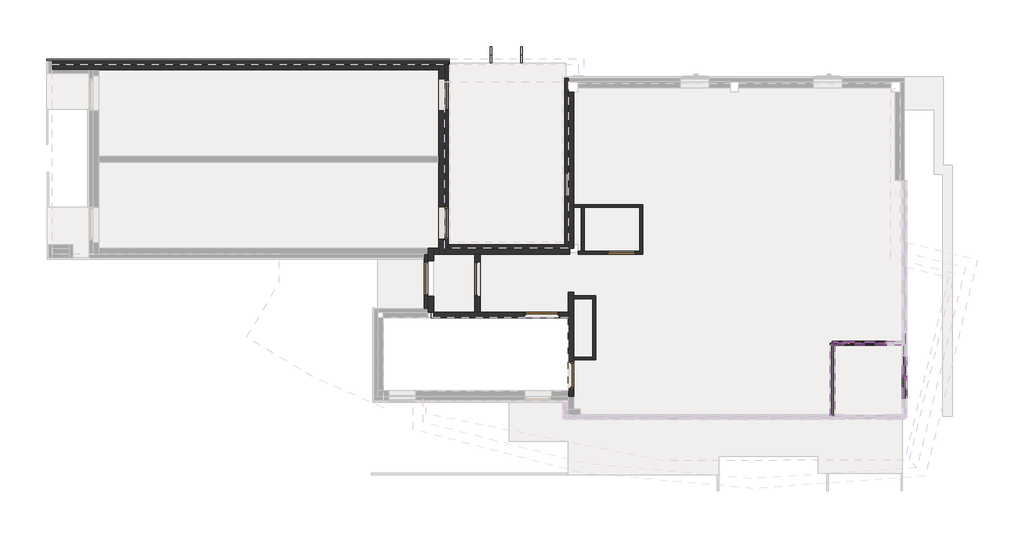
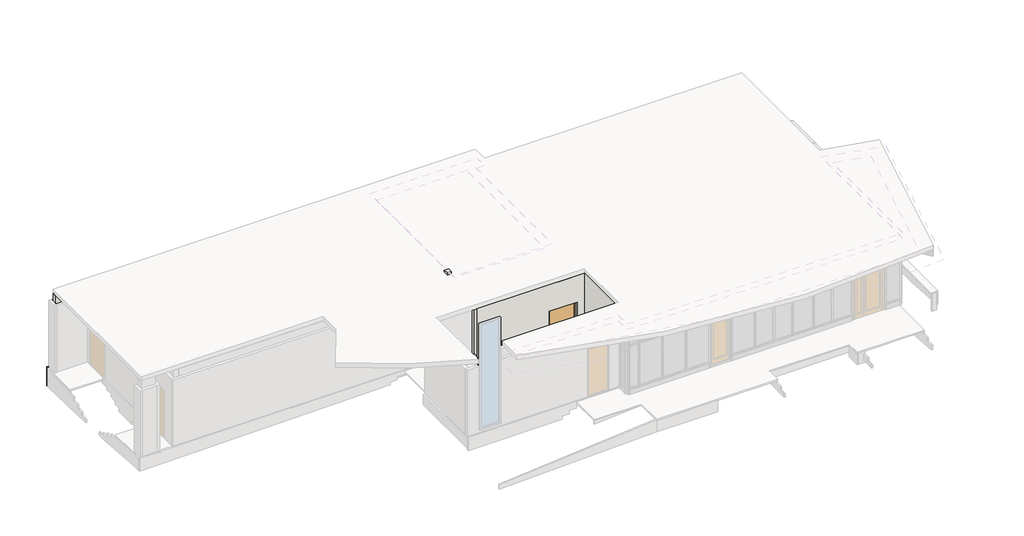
# One storey, part 3 of 4: 27 walls, 26 members, 9 doors, 9 plates.
"""IFC4 building model written with IfcOpenShell, lengths in millimetres."""

from ifc_helpers import new_model, si_unit, frame, origin, place, context, project, spatial, polyline, outline, extrude, faceted_brep, transform, mapped, element, save
from components import door_2dab296f, door_0f211a22, door_d9ea8988, door_a4a0d0d3, door_6cd90bed, door_cfbb89e6, door_9d3fb36d, door_4bc70aad, door_8b928317, member_24ac0887, member_6e50c603, member_bdea3084, member_61b3b229, member_1f1ab5e9, member_7164932b, member_6ffebc0f, member_205d2b36, member_e6dd4257, member_3edf8f76, member_be3fdc0c, member_ec5d081a, member_a6ba09a3, member_7c62c7d9, member_457f9466, member_0d3281e4, member_32c4282c, member_044d981f, member_7d543e93, member_9b8962c0, plate_2ce54bea, plate_732bb6f4, plate_8821ab84, plate_4ed42cca, plate_b477a77f, plate_3d7a734e, plate_050975ec, plate_a4859771

model = new_model("IFC4")

# Units and contexts
model_context = context("Model", 3, world=origin())
ifc_project = project(units=[si_unit("LENGTHUNIT", "METRE", prefix="MILLI")], contexts=[model_context])

# Site, building, storey
site = spatial("IfcSite", under=ifc_project)
building = spatial("IfcBuilding", under=site)
storey = spatial("IfcBuildingStorey", under=building, Name="Этаж 1", Elevation=0.0)

# Doors
placement = place(None, origin())
door_shape = door_2dab296f(model_context)
element("IfcDoor", 1, ObjectType="(Dr)_ДПУ(распашная)_2Ст_Прямоугольная : (Нр)-ДО(1380х2165(h))", at=placement, inside=storey, context=model_context, shape_type="MappedRepresentation", body=[
    mapped(door_shape, transform((26221.9990554, 1632.992393, 0.0), x_axis=(-1.0, 0.0, 0.0), y_axis=(0.0, -1.0, 0.0), z_axis=(0.0, 0.0, 1.0))),
])
door_2_shape = door_0f211a22(model_context)
element("IfcDoor", 2, ObjectType="(Dr)_ДУ(распашная)_1Ст_Прямоугольная : (Нр)_ДГ(1.2х2.1(h))", at=placement, inside=storey, context=model_context, shape_type="MappedRepresentation", body=[
    mapped(door_2_shape, transform((11210.0, 3848.0, 0.0), x_axis=(0.0, 1.0, 0.0), y_axis=(-1.0, 0.0, 0.0), z_axis=(0.0, 0.0, 1.0))),
])
door_3_shape = door_d9ea8988(model_context)
element("IfcDoor", 3, ObjectType="(Dr)_ДУ(распашная)_1Ст_Прямоугольная : (Вн)_ДГ(1.20х2.1(h))", at=placement, inside=storey, context=model_context, shape_type="MappedRepresentation", body=[
    mapped(door_3_shape, transform((12969.9999902, 3830.0, 0.0), x_axis=(0.0, 1.0, 0.0), y_axis=(-1.0, 0.0, 0.0), z_axis=(0.0, 0.0, 1.0))),
])
door_4_shape = door_a4a0d0d3(model_context)
element("IfcDoor", 4, ObjectType="(Dr)_ДУ(распашная)_1Ст_Прямоугольная : (Вн)_ДГ(1.10х2.1(h))", at=placement, inside=storey, context=model_context, shape_type="MappedRepresentation", body=[
    mapped(door_4_shape, transform((11910.0, 5748.0, 0.0), x_axis=(0.0, -1.0, 0.0), y_axis=(1.0, 0.0, 0.0), z_axis=(0.0, 0.0, 1.0))),
])
door_5_shape = door_6cd90bed(model_context)
element("IfcDoor", 5, ObjectType="(Dr)_ДУ(распашная)_1Ст_Прямоугольная : (Нр)_ДГ(0.89х2.1(h))", at=placement, inside=storey, context=model_context, shape_type="MappedRepresentation", body=[
    mapped(door_5_shape, transform((16010.0, 7065.0, 0.0), x_axis=(0.0, 1.0, 0.0), y_axis=(-1.0, 0.0, 0.0), z_axis=(0.0, 0.0, 1.0))),
])
door_6_shape = door_cfbb89e6(model_context)
element("IfcDoor", 6, ObjectType="(Dr)_ДУ(распашная)_1Ст_Прямоугольная : (Вн)_ДГ(1.10х2.1(h))", at=placement, inside=storey, context=model_context, shape_type="MappedRepresentation", body=[
    mapped(door_6_shape, transform((11910.0, 10140.0, 0.0), x_axis=(0.0, -1.0, 0.0), y_axis=(1.0, 0.0, 0.0), z_axis=(0.0, 0.0, 1.0))),
])
door_7_shape = door_9d3fb36d(model_context)
element("IfcDoor", 7, ObjectType="(Dr)_ДУ(распашная)_1Ст_Прямоугольная : (Вн)_ДГ(1.20х2.1(h))", at=placement, inside=storey, context=model_context, shape_type="MappedRepresentation", body=[
    mapped(door_7_shape, transform((15170.0, 2600.0, 0.0), x_axis=(1.0, 0.0, 0.0), y_axis=(0.0, 1.0, 0.0), z_axis=(0.0, 0.0, 1.0))),
])
door_8_shape = door_4bc70aad(model_context)
element("IfcDoor", 8, ObjectType="(Dr)_ДУ(распашная)_1Ст_Прямоугольная : (Вн)_ДГ(1.00х2.1(h))", at=placement, inside=storey, context=model_context, shape_type="MappedRepresentation", body=[
    mapped(door_8_shape, transform((17900.0011644, 4730.0, 0.0), x_axis=(-1.0, 0.0, 0.0), y_axis=(0.0, -1.0, 0.0), z_axis=(0.0, 0.0, 1.0))),
])
door_9_shape = door_8b928317(model_context)
element("IfcDoor", 9, ObjectType="(Dr)_ДУ(распашная)_1Ст_Прямоугольная : (Вн)_ДГ(0.92х2.1(h))", at=placement, inside=storey, context=model_context, shape_type="MappedRepresentation", body=[
    mapped(door_9_shape, transform((16170.0, 540.0, 0.0), x_axis=(0.0, -1.0, 0.0), y_axis=(1.0, 0.0, 0.0), z_axis=(0.0, 0.0, 1.0))),
])

# Members
member_shape = member_24ac0887(model_context)
element("IfcMember", 10, ObjectType="Прямоугольный импост : 50х150мм", at=placement, inside=storey, context=model_context, shape_type="MappedRepresentation", body=[
    mapped(member_shape, transform((25117.9914484, 1632.992393, -50.0), x_axis=(0.0, 1.0, 0.0), y_axis=(1.0, 0.0, 0.0), z_axis=(0.0, 0.0, -1.0))),
])
member_2_shape = member_6e50c603(model_context)
element("IfcMember", 11, ObjectType="Прямоугольный импост : 50х150мм", at=placement, inside=storey, context=model_context, shape_type="MappedRepresentation", body=[
    mapped(member_2_shape, transform((25117.9914484, 1582.992393, 3300.0), x_axis=(0.0, 0.0, 1.0), y_axis=(1.0, 0.0, 0.0), z_axis=(0.0, 1.0, 0.0))),
])
member_3_shape = member_bdea3084(model_context)
element("IfcMember", 12, ObjectType="Прямоугольный импост : 50х150мм", at=placement, inside=storey, context=model_context, shape_type="MappedRepresentation", body=[
    mapped(member_3_shape, transform((25531.9990554, 1632.992393, 2190.0), x_axis=(0.0, 0.0, 1.0), y_axis=(0.0, 1.0, 0.0), z_axis=(-1.0, 0.0, 0.0))),
])
member_4_shape = member_61b3b229(model_context)
element("IfcMember", 13, ObjectType="Прямоугольный импост : 50х150мм", at=placement, inside=storey, context=model_context, shape_type="MappedRepresentation", body=[
    mapped(member_4_shape, transform((25531.9990554, 1632.992393, 3300.0), x_axis=(0.0, 0.0, 1.0), y_axis=(0.0, 1.0, 0.0), z_axis=(-1.0, 0.0, 0.0))),
])
member_5_shape = member_1f1ab5e9(model_context)
element("IfcMember", 14, ObjectType="Прямоугольный импост : 50х150мм", at=placement, inside=storey, context=model_context, shape_type="MappedRepresentation", body=[
    mapped(member_5_shape, transform((27587.9990554, 504.5494712, 2140.0), x_axis=(0.0, 1.0, 0.0), y_axis=(1.0, 0.0, 0.0), z_axis=(0.0, 0.0, -1.0))),
])
member_6_shape = member_7164932b(model_context)
element("IfcMember", 15, ObjectType="Прямоугольный импост : 50х150мм", at=placement, inside=storey, context=model_context, shape_type="MappedRepresentation", body=[
    mapped(member_6_shape, transform((27587.9990554, 504.5494712, 165.0), x_axis=(0.0, 1.0, 0.0), y_axis=(1.0, 0.0, 0.0), z_axis=(0.0, 0.0, -1.0))),
])
member_7_shape = member_6ffebc0f(model_context)
element("IfcMember", 16, ObjectType="Прямоугольный импост : 50х150мм", at=placement, inside=storey, context=model_context, shape_type="MappedRepresentation", body=[
    mapped(member_7_shape, transform((27587.9990554, 1204.5494712, -50.0), x_axis=(0.0, 0.0, -1.0), y_axis=(1.0, 0.0, 0.0), z_axis=(0.0, -1.0, 0.0))),
])
member_8_shape = member_205d2b36(model_context)
element("IfcMember", 17, ObjectType="Прямоугольный импост : 50х150мм", at=placement, inside=storey, context=model_context, shape_type="MappedRepresentation", body=[
    mapped(member_8_shape, transform((27587.9990554, 504.5494712, -50.0), x_axis=(0.0, 0.0, -1.0), y_axis=(1.0, 0.0, 0.0), z_axis=(0.0, -1.0, 0.0))),
])
member_9_shape = member_e6dd4257(model_context)
element("IfcMember", 18, ObjectType="Прямоугольный импост : 50х150мм", at=placement, inside=storey, context=model_context, shape_type="MappedRepresentation", body=[
    mapped(member_9_shape, transform((25167.9914484, 1632.992393, 3300.0), x_axis=(0.0, 0.0, 1.0), y_axis=(0.0, 1.0, 0.0), z_axis=(-1.0, 0.0, 0.0))),
])
element("IfcMember", 19, ObjectType="Прямоугольный импост : 50х150мм", at=placement, inside=storey, context=model_context, shape_type="MappedRepresentation", body=[
    mapped(member_4_shape, transform((26911.9990554, 1632.992393, -50.0), x_axis=(0.0, 0.0, -1.0), y_axis=(0.0, 1.0, 0.0), z_axis=(1.0, 0.0, 0.0))),
])
element("IfcMember", 20, ObjectType="Прямоугольный импост : 50х150мм", at=placement, inside=storey, context=model_context, shape_type="MappedRepresentation", body=[
    mapped(member_9_shape, transform((25481.9990554, 1632.992393, -50.0), x_axis=(0.0, 0.0, -1.0), y_axis=(0.0, 1.0, 0.0), z_axis=(1.0, 0.0, 0.0))),
])
member_10_shape = member_3edf8f76(model_context)
element("IfcMember", 21, ObjectType="Прямоугольный импост : 50х150мм", at=placement, inside=storey, context=model_context, shape_type="MappedRepresentation", body=[
    mapped(member_10_shape, transform((25167.9914484, 1632.992393, 2190.0), x_axis=(0.0, 0.0, 1.0), y_axis=(0.0, 1.0, 0.0), z_axis=(-1.0, 0.0, 0.0))),
])
member_11_shape = member_be3fdc0c(model_context)
element("IfcMember", 22, ObjectType="Прямоугольный импост : 50х150мм", at=placement, inside=storey, context=model_context, shape_type="MappedRepresentation", body=[
    mapped(member_11_shape, transform((26936.9990554, 1632.992393, -50.0), x_axis=(-1.0, 0.0, 0.0), y_axis=(0.0, 1.0, 0.0), z_axis=(0.0, 0.0, -1.0))),
])
element("IfcMember", 23, ObjectType="Прямоугольный импост : 50х150мм", at=placement, inside=storey, context=model_context, shape_type="MappedRepresentation", body=[
    mapped(member_11_shape, transform((25506.9990554, 1632.992393, -50.0), x_axis=(-1.0, 0.0, 0.0), y_axis=(0.0, 1.0, 0.0), z_axis=(0.0, 0.0, -1.0))),
])
member_12_shape = member_ec5d081a(model_context)
element("IfcMember", 24, ObjectType="Прямоугольный импост : 50х150мм", at=placement, inside=storey, context=model_context, shape_type="MappedRepresentation", body=[
    mapped(member_12_shape, transform((26936.9990554, 1632.992393, 2190.0), x_axis=(-1.0, 0.0, 0.0), y_axis=(0.0, 1.0, 0.0), z_axis=(0.0, 0.0, -1.0))),
])
element("IfcMember", 25, ObjectType="Прямоугольный импост : 50х150мм", at=placement, inside=storey, context=model_context, shape_type="MappedRepresentation", body=[
    mapped(member_12_shape, transform((25506.9990554, 1632.992393, 2190.0), x_axis=(-1.0, 0.0, 0.0), y_axis=(0.0, 1.0, 0.0), z_axis=(0.0, 0.0, -1.0))),
])
member_13_shape = member_a6ba09a3(model_context)
element("IfcMember", 26, ObjectType="Прямоугольный импост : 50х150мм", at=placement, inside=storey, context=model_context, shape_type="MappedRepresentation", body=[
    mapped(member_13_shape, transform((25117.9914484, 1632.992393, -50.0), x_axis=(-1.0, 0.0, 0.0), y_axis=(0.0, 1.0, 0.0), z_axis=(0.0, 0.0, -1.0))),
])
member_14_shape = member_7c62c7d9(model_context)
element("IfcMember", 27, ObjectType="Прямоугольный импост : 50х150мм", at=placement, inside=storey, context=model_context, shape_type="MappedRepresentation", body=[
    mapped(member_14_shape, transform((25117.9914484, 1632.992393, 2190.0), x_axis=(-1.0, 0.0, 0.0), y_axis=(0.0, 1.0, 0.0), z_axis=(0.0, 0.0, -1.0))),
])
member_15_shape = member_457f9466(model_context)
element("IfcMember", 28, ObjectType="Прямоугольный импост : 50х150мм", at=placement, inside=storey, context=model_context, shape_type="MappedRepresentation", body=[
    mapped(member_15_shape, transform((27587.9990554, 479.5494712, 2140.0), x_axis=(0.0, 0.0, 1.0), y_axis=(1.0, 0.0, 0.0), z_axis=(0.0, 1.0, 0.0))),
])
element("IfcMember", 29, ObjectType="Прямоугольный импост : 50х150мм", at=placement, inside=storey, context=model_context, shape_type="MappedRepresentation", body=[
    mapped(member_15_shape, transform((27587.9990554, 1979.5494712, 2140.0), x_axis=(0.0, 0.0, 1.0), y_axis=(1.0, 0.0, 0.0), z_axis=(0.0, 1.0, 0.0))),
])
element("IfcMember", 30, ObjectType="Прямоугольный импост : 50х150мм", at=placement, inside=storey, context=model_context, shape_type="MappedRepresentation", body=[
    mapped(member_15_shape, transform((27587.9990554, 479.5494712, 190.0), x_axis=(0.0, 0.0, 1.0), y_axis=(1.0, 0.0, 0.0), z_axis=(0.0, 1.0, 0.0))),
])
member_16_shape = member_0d3281e4(model_context)
element("IfcMember", 31, ObjectType="Прямоугольный импост : 50х150мм", at=placement, inside=storey, context=model_context, shape_type="MappedRepresentation", body=[
    mapped(member_16_shape, transform((27587.9990554, 479.5494712, 3300.0), x_axis=(0.0, 0.0, 1.0), y_axis=(1.0, 0.0, 0.0), z_axis=(0.0, 1.0, 0.0))),
])
member_17_shape = member_32c4282c(model_context)
element("IfcMember", 32, ObjectType="Прямоугольный импост : 50х150мм", at=placement, inside=storey, context=model_context, shape_type="MappedRepresentation", body=[
    mapped(member_17_shape, transform((26961.9990554, 1632.992393, 3300.0), x_axis=(0.0, 0.0, 1.0), y_axis=(0.0, 1.0, 0.0), z_axis=(-1.0, 0.0, 0.0))),
])
member_18_shape = member_044d981f(model_context)
element("IfcMember", 33, ObjectType="Прямоугольный импост : 50х150мм", at=placement, inside=storey, context=model_context, shape_type="MappedRepresentation", body=[
    mapped(member_18_shape, transform((26961.9990554, 1632.992393, 2190.0), x_axis=(0.0, 0.0, 1.0), y_axis=(0.0, 1.0, 0.0), z_axis=(-1.0, 0.0, 0.0))),
])
member_19_shape = member_7d543e93(model_context)
element("IfcMember", 34, ObjectType="Прямоугольный импост : 50х150мм", at=placement, inside=storey, context=model_context, shape_type="MappedRepresentation", body=[
    mapped(member_19_shape, transform((27587.9990554, 1179.5494712, 2140.0), x_axis=(0.0, 0.0, 1.0), y_axis=(1.0, 0.0, 0.0), z_axis=(0.0, 1.0, 0.0))),
])
member_20_shape = member_9b8962c0(model_context)
element("IfcMember", 35, ObjectType="Прямоугольный импост : 50х150мм", at=placement, inside=storey, context=model_context, shape_type="MappedRepresentation", body=[
    mapped(member_20_shape, transform((27587.9990554, 1179.5494712, 3300.0), x_axis=(0.0, 0.0, 1.0), y_axis=(1.0, 0.0, 0.0), z_axis=(0.0, 1.0, 0.0))),
])

# Plates
plate_shape = plate_2ce54bea(model_context)
element("IfcPlate", 36, ObjectType="Системная панель : Стекло(50мм)", at=placement, inside=storey, context=model_context, shape_type="MappedRepresentation", body=[
    mapped(plate_shape, transform((25117.9914484, 368.7709321, 0.0), x_axis=(0.0, 1.0, 0.0), y_axis=(-1.0, 0.0, 0.0), z_axis=(0.0, 0.0, 1.0))),
])
plate_2_shape = plate_732bb6f4(model_context)
element("IfcPlate", 37, ObjectType="Системная панель : Стекло(50мм)", at=placement, inside=storey, context=model_context, shape_type="MappedRepresentation", body=[
    mapped(plate_2_shape, transform((27587.9990554, 104.5494712, 2165.0), x_axis=(0.0, 1.0, 0.0), y_axis=(-1.0, 0.0, 0.0), z_axis=(0.0, 0.0, 1.0))),
])
element("IfcPlate", 38, ObjectType="Системная панель : Стекло(50мм)", at=placement, inside=storey, context=model_context, shape_type="MappedRepresentation", body=[
    mapped(plate_2_shape, transform((27587.9990554, 1604.5494712, 2165.0), x_axis=(0.0, 1.0, 0.0), y_axis=(-1.0, 0.0, 0.0), z_axis=(0.0, 0.0, 1.0))),
])
plate_3_shape = plate_8821ab84(model_context)
element("IfcPlate", 39, ObjectType="Системная панель : Стекло(50мм)", at=placement, inside=storey, context=model_context, shape_type="MappedRepresentation", body=[
    mapped(plate_3_shape, transform((27587.9990554, 104.5494712, 215.0), x_axis=(0.0, 1.0, 0.0), y_axis=(-1.0, 0.0, 0.0), z_axis=(0.0, 0.0, 1.0))),
])
plate_4_shape = plate_4ed42cca(model_context)
element("IfcPlate", 40, ObjectType="Системная панель : Стекло(50мм)", at=placement, inside=storey, context=model_context, shape_type="MappedRepresentation", body=[
    mapped(plate_4_shape, transform((27587.9990554, 854.5494712, 2165.0), x_axis=(0.0, 1.0, 0.0), y_axis=(-1.0, 0.0, 0.0), z_axis=(0.0, 0.0, 1.0))),
])
plate_5_shape = plate_b477a77f(model_context)
element("IfcPlate", 41, ObjectType="Системная панель : Стекло(50мм)", at=placement, inside=storey, context=model_context, shape_type="MappedRepresentation", body=[
    mapped(plate_5_shape, transform((27587.9990554, 854.5494712, 215.0), x_axis=(0.0, 1.0, 0.0), y_axis=(-1.0, 0.0, 0.0), z_axis=(0.0, 0.0, 1.0))),
])
plate_6_shape = plate_3d7a734e(model_context)
element("IfcPlate", 42, ObjectType="Системная панель : Стекло(50мм)", at=placement, inside=storey, context=model_context, shape_type="MappedRepresentation", body=[
    mapped(plate_6_shape, transform((25324.9952519, 1632.992393, 0.0), x_axis=(-1.0, 0.0, 0.0), y_axis=(0.0, -1.0, 0.0), z_axis=(0.0, 0.0, 1.0))),
])
plate_7_shape = plate_050975ec(model_context)
element("IfcPlate", 43, ObjectType="Системная панель : Стекло(50мм)", at=placement, inside=storey, context=model_context, shape_type="MappedRepresentation", body=[
    mapped(plate_7_shape, transform((26221.9990554, 1632.992393, 2215.0), x_axis=(-1.0, 0.0, 0.0), y_axis=(0.0, -1.0, 0.0), z_axis=(0.0, 0.0, 1.0))),
])
plate_8_shape = plate_a4859771(model_context)
element("IfcPlate", 44, ObjectType="Системная панель : Стекло(50мм)", at=placement, inside=storey, context=model_context, shape_type="MappedRepresentation", body=[
    mapped(plate_8_shape, transform((25324.9952519, 1632.992393, 2215.0), x_axis=(-1.0, 0.0, 0.0), y_axis=(0.0, -1.0, 0.0), z_axis=(0.0, 0.0, 1.0))),
])

# Walls
element("IfcWall", 45, ObjectType="(Нр).(Ут-120)", at=placement, inside=storey, context=model_context, shape_type="Brep", body=[
    faceted_brep([(-1595.9332962, 11190.0, -300.0), (11850.0, 11190.0, -300.0), (11970.0, 11190.0, -300.0), (11970.0, 11190.0, 2955.0), (-1595.9332962, 11190.0, 2955.0), (-1595.9332962, 11310.0, -300.0), (-1595.9332962, 11310.0, 2955.0), (11970.0, 11310.0, 2955.0), (11970.0, 11310.0, -300.0)], [[[0, 1, 2, 3, 4]], [[5, 6, 7, 8]], [[2, 1, 0, 5, 8]], [[4, 3, 7, 6]], [[0, 4, 6, 5]], [[2, 8, 7, 3]]]),
])
element("IfcWall", 46, ObjectType="(Нр).(Ут-120)", at=placement, inside=storey, context=model_context, shape_type="Brep", body=[
    faceted_brep([(11850.0, 11190.0, 3180.0), (11850.0, 11190.0, -300.0), (11850.0, 4880.0, -300.0), (11850.0, 4880.0, 3180.0), (11850.0, 9590.0, 2100.0), (11850.0, 9590.0, 0.0), (11850.0, 10690.0, 0.0), (11850.0, 10690.0, 2100.0), (11850.0, 5198.0, 2100.0), (11850.0, 5198.0, 0.0), (11850.0, 6298.0, 0.0), (11850.0, 6298.0, 2100.0), (11970.0, 11190.0, -300.0), (11970.0, 11190.0, 2955.0), (11970.0, 11190.0, 3180.0), (11970.0, 4880.0, 3180.0), (11970.0, 4880.0, 2955.0), (11970.0, 4880.0, -300.0), (11970.0, 5000.0, -300.0), (11970.0, 9590.0, 0.0), (11970.0, 9590.0, 2100.0), (11970.0, 10690.0, 2100.0), (11970.0, 10690.0, 0.0), (11970.0, 5198.0, 0.0), (11970.0, 5198.0, 2100.0), (11970.0, 6298.0, 2100.0), (11970.0, 6298.0, 0.0)], [[[0, 1, 2, 3], [4, 5, 6, 7], [8, 9, 10, 11]], [[12, 13, 14, 15, 16, 17, 18], [19, 20, 21, 22], [23, 24, 25, 26]], [[2, 1, 12, 18, 17]], [[0, 3, 15, 14]], [[3, 2, 17, 16, 15]], [[5, 4, 20, 19]], [[20, 4, 7, 21]], [[21, 7, 6, 22]], [[5, 19, 22, 6]], [[9, 8, 24, 23]], [[24, 8, 11, 25]], [[25, 11, 10, 26]], [[9, 23, 26, 10]], [[0, 14, 13, 12, 1]]]),
])
element("IfcWall", 47, ObjectType="(Нр).(Ут-120)", at=placement, inside=storey, context=model_context, shape_type="Brep", body=[
    faceted_brep([(11970.0, 4880.0, -300.0), (16070.0, 4880.0, -300.0), (16070.0, 4880.0, 2955.0), (11970.0, 4880.0, 2955.0), (11970.0, 5000.0, -300.0), (11970.0, 5000.0, 2955.0), (16070.0, 5000.0, 2955.0), (16070.0, 5000.0, -300.0), (15950.0, 5000.0, -300.0)], [[[0, 1, 2, 3]], [[4, 5, 6, 7, 8]], [[1, 0, 4, 8, 7]], [[3, 2, 6, 5]], [[0, 3, 5, 4]], [[2, 1, 7, 6]]]),
])
element("IfcWall", 48, ObjectType="(Нр).(Ут-120)", at=placement, inside=storey, context=model_context, shape_type="Brep", body=[
    faceted_brep([(16070.0, 5000.0, -300.0), (16070.0, 10700.0, -300.0), (16070.0, 10700.0, -100.0), (16070.0, 10700.0, 3000.0), (16070.0, 10700.0, 3180.0), (16070.0, 5000.0, 3180.0), (16070.0, 5000.0, 2955.0), (16070.0, 7510.0, 2100.0), (16070.0, 7510.0, 0.0), (16070.0, 6620.0, 0.0), (16070.0, 6620.0, 2100.0), (15950.0, 5000.0, -300.0), (15950.0, 5000.0, 3180.0), (15950.0, 10700.0, 3180.0), (15950.0, 10700.0, -300.0), (15950.0, 7510.0, 0.0), (15950.0, 7510.0, 2100.0), (15950.0, 6620.0, 2100.0), (15950.0, 6620.0, 0.0)], [[[0, 1, 2, 3, 4, 5, 6], [7, 8, 9, 10]], [[11, 12, 13, 14], [15, 16, 17, 18]], [[1, 0, 11, 14]], [[5, 4, 13, 12]], [[0, 6, 5, 12, 11]], [[4, 3, 2, 1, 14, 13]], [[8, 7, 16, 15]], [[16, 7, 10, 17]], [[17, 10, 9, 18]], [[8, 15, 18, 9]]]),
])
element("IfcWall", 49, ObjectType="(Нр).(Ут-120)", at=placement, inside=storey, context=model_context, shape_type="Brep", body=[
    faceted_brep([(11270.0, 2820.0, -300.0), (11270.0, 4680.0, -300.0), (11270.0, 4680.0, 2955.0), (11270.0, 2820.0, 2955.0), (11270.0, 4448.0, 2100.0), (11270.0, 4448.0, 0.0), (11270.0, 3248.0, 0.0), (11270.0, 3248.0, 2100.0), (11150.0, 2820.0, -300.0), (11150.0, 2820.0, 2955.0), (11150.0, 4560.0, 2955.0), (11150.0, 4680.0, 2955.0), (11150.0, 4680.0, -300.0), (11150.0, 4560.0, -300.0), (11150.0, 4448.0, 0.0), (11150.0, 4448.0, 2100.0), (11150.0, 3248.0, 2100.0), (11150.0, 3248.0, 0.0)], [[[0, 1, 2, 3], [4, 5, 6, 7]], [[8, 9, 10, 11, 12, 13], [14, 15, 16, 17]], [[1, 0, 8, 13, 12]], [[3, 2, 11, 10, 9]], [[0, 3, 9, 8]], [[5, 4, 15, 14]], [[15, 4, 7, 16]], [[16, 7, 6, 17]], [[5, 14, 17, 6]], [[1, 12, 11, 2]]]),
])
element("IfcWall", 50, ObjectType="(Нр)_(ЖБ-200)", at=placement, inside=storey, context=model_context, shape_type="Brep", body=[
    faceted_brep([(-1595.9332962, 10990.0, -100.0), (-200.0, 10990.0, -100.0), (0.0, 10990.0, -100.0), (11650.0, 10990.0, -100.0), (11650.0, 10990.0, 3300.0), (0.0, 10990.0, 3300.0), (-200.0, 10990.0, 3300.0), (-1595.9332962, 10990.0, 3300.0), (-1595.9332962, 11190.0, -100.0), (-1595.9332962, 11190.0, 3300.0), (11650.0, 11190.0, 3300.0), (11650.0, 11190.0, -100.0)], [[[0, 1, 2, 3, 4, 5, 6, 7]], [[8, 9, 10, 11]], [[3, 2, 1, 0, 8, 11]], [[7, 6, 5, 4, 10, 9]], [[0, 7, 9, 8]], [[4, 3, 11, 10]]]),
])
element("IfcWall", 51, ObjectType="(Нр)_(ЖБ-200)", at=placement, inside=storey, context=model_context, shape_type="Brep", body=[
    faceted_brep([(11650.0, 11190.0, -100.0), (11650.0, 10990.0, -100.0), (11650.0, 8035.0, -100.0), (11650.0, 7835.0, -100.0), (11650.0, 4680.0, -100.0), (11650.0, 4680.0, 0.0), (11650.0, 4680.0, 3300.0), (11650.0, 7835.0, 3300.0), (11650.0, 8035.0, 3300.0), (11650.0, 10990.0, 3300.0), (11650.0, 11190.0, 3300.0), (11650.0, 5198.0, 2100.0), (11650.0, 5198.0, 0.0), (11650.0, 6298.0, 0.0), (11650.0, 6298.0, 2100.0), (11650.0, 10690.0, 0.0), (11650.0, 10690.0, 2100.0), (11650.0, 9590.0, 2100.0), (11650.0, 9590.0, 0.0), (11850.0, 4680.0, -100.0), (11850.0, 11190.0, -100.0), (11850.0, 11190.0, 3300.0), (11850.0, 4680.0, 3300.0), (11850.0, 5198.0, 0.0), (11850.0, 5198.0, 2100.0), (11850.0, 6298.0, 2100.0), (11850.0, 6298.0, 0.0), (11850.0, 10690.0, 2100.0), (11850.0, 10690.0, 0.0), (11850.0, 9590.0, 0.0), (11850.0, 9590.0, 2100.0)], [[[0, 1, 2, 3, 4, 5, 6, 7, 8, 9, 10], [11, 12, 13, 14], [15, 16, 17, 18]], [[19, 20, 21, 22], [23, 24, 25, 26], [27, 28, 29, 30]], [[4, 3, 2, 1, 0, 20, 19]], [[10, 9, 8, 7, 6, 22, 21]], [[0, 10, 21, 20]], [[4, 19, 22, 6, 5]], [[11, 24, 23, 12]], [[13, 26, 25, 14]], [[24, 11, 14, 25]], [[26, 13, 12, 23]], [[28, 27, 16, 15]], [[29, 28, 15, 18]], [[30, 29, 18, 17]], [[27, 30, 17, 16]]]),
])
element("IfcWall", 52, ObjectType="(Нр)_(ЖБ-200)", at=placement, inside=storey, context=model_context, shape_type="Brep", body=[
    faceted_brep([(16120.0, 4880.0, 3300.0), (16120.0, 4880.0, -100.0), (11650.0, 4880.0, -100.0), (11650.0, 4880.0, 0.0), (11750.0, 4880.0, 0.0), (11750.0, 4880.0, 3300.0), (16120.0, 4680.0, 3300.0), (13069.9999902, 4680.0, 3300.0), (12869.9999902, 4680.0, 3300.0), (11750.0, 4680.0, 3300.0), (11750.0, 4680.0, 0.0), (11650.0, 4680.0, 0.0), (11650.0, 4680.0, -100.0), (12869.9999902, 4680.0, -100.0), (13069.9999902, 4680.0, -100.0), (16120.0, 4680.0, -100.0)], [[[0, 1, 2, 3, 4, 5]], [[6, 7, 8, 9, 10, 11, 12, 13, 14, 15]], [[1, 0, 6, 15]], [[2, 1, 15, 14, 13, 12]], [[3, 2, 12, 11]], [[4, 3, 11, 10]], [[5, 4, 10, 9]], [[0, 5, 9, 8, 7, 6]]]),
])
element("IfcWall", 53, ObjectType="(Вн)_(ЖБ-200)", at=placement, inside=storey, context=model_context, shape_type="SweptSolid", body=[
    extrude(outline(polyline([(4680.0, -100.0), (2700.0, -100.0), (2700.0, 3300.0), (4680.0, 3300.0), (4680.0, -100.0)]), holes=[polyline([(4430.0, 0.0), (4430.0, 2100.0), (3230.0, 2100.0), (3230.0, 0.0), (4430.0, 0.0)])]), frame((12869.9999902, 0.0, 0.0), z_axis=(1.0, 0.0, 0.0), x_axis=(0.0, 1.0, 0.0)), (0.0, 0.0, 1.0), 200.0),
])
element("IfcWall", 54, ObjectType="(Вн)_(ЖБ-200)", at=placement, inside=storey, context=model_context, shape_type="Brep", body=[
    faceted_brep([(11370.0, 2500.0, 0.0), (11370.0, 2500.0, -100.0), (16070.0, 2500.0, -100.0), (16070.0, 2500.0, 3300.0), (11470.0, 2500.0, 3300.0), (11470.0, 2500.0, 0.0), (15770.0, 2500.0, 2100.0), (15770.0, 2500.0, 0.0), (14570.0, 2500.0, 0.0), (14570.0, 2500.0, 2100.0), (11370.0, 2700.0, 0.0), (11470.0, 2700.0, 0.0), (11470.0, 2700.0, 3300.0), (12869.9999902, 2700.0, 3300.0), (13069.9999902, 2700.0, 3300.0), (16070.0, 2700.0, 3300.0), (16070.0, 2700.0, -100.0), (13069.9999902, 2700.0, -100.0), (12869.9999902, 2700.0, -100.0), (11370.0, 2700.0, -100.0), (15770.0, 2700.0, 0.0), (15770.0, 2700.0, 2100.0), (14570.0, 2700.0, 2100.0), (14570.0, 2700.0, 0.0)], [[[0, 1, 2, 3, 4, 5], [6, 7, 8, 9]], [[10, 11, 12, 13, 14, 15, 16, 17, 18, 19], [20, 21, 22, 23]], [[1, 0, 10, 19]], [[2, 1, 19, 18, 17, 16]], [[3, 2, 16, 15]], [[4, 3, 15, 14, 13, 12]], [[5, 4, 12, 11]], [[0, 5, 11, 10]], [[7, 6, 21, 20]], [[21, 6, 9, 22]], [[22, 9, 8, 23]], [[7, 20, 23, 8]]]),
])
element("IfcWall", 55, ObjectType="(Нр)_(ЖБ-200)", at=placement, inside=storey, context=model_context, shape_type="Brep", body=[
    faceted_brep([(11270.0, 4880.0, 0.0), (11270.0, 4448.0, 0.0), (11270.0, 4448.0, 2100.0), (11270.0, 3248.0, 2100.0), (11270.0, 3248.0, 0.0), (11270.0, 2700.0, 0.0), (11270.0, 2700.0, 3300.0), (11270.0, 4680.0, 3300.0), (11270.0, 4880.0, 3300.0), (11470.0, 4448.0, 2100.0), (11470.0, 4448.0, 0.0), (11470.0, 4680.0, 0.0), (11470.0, 4880.0, 0.0), (11470.0, 4880.0, 3300.0), (11470.0, 2700.0, 3300.0), (11470.0, 2700.0, 0.0), (11470.0, 3248.0, 0.0), (11470.0, 3248.0, 2100.0)], [[[0, 1, 2, 3, 4, 5, 6, 7, 8]], [[9, 10, 11, 12, 13, 14, 15, 16, 17]], [[16, 15, 5, 4]], [[12, 11, 10, 1, 0]], [[8, 7, 6, 14, 13]], [[0, 8, 13, 12]], [[6, 5, 15, 14]], [[4, 3, 17, 16]], [[2, 1, 10, 9]], [[3, 2, 9, 17]]]),
])
element("IfcWall", 56, ObjectType="(Вн)_(ЖБ-200)", at=placement, inside=storey, context=model_context, shape_type="Brep", body=[
    faceted_brep([(16270.0, -200.0, -100.0), (16270.0, 3379.9999905, -100.0), (16270.0, 3379.9999905, 3300.0), (16270.0, -200.0, 3300.0), (16270.0, 80.0, 0.0), (16270.0, 80.0, 2100.0), (16270.0, 1000.0, 2100.0), (16270.0, 1000.0, 0.0), (16070.0, 3379.9999905, -100.0), (16070.0, -200.0, -100.0), (16070.0, -200.0, 3300.0), (16070.0, 0.0, 3300.0), (16070.0, 3379.9999905, 3300.0), (16070.0, 80.0, 2100.0), (16070.0, 80.0, 0.0), (16070.0, 1000.0, 0.0), (16070.0, 1000.0, 2100.0)], [[[0, 1, 2, 3], [4, 5, 6, 7]], [[8, 9, 10, 11, 12], [13, 14, 15, 16]], [[1, 0, 9, 8]], [[2, 1, 8, 12]], [[3, 2, 12, 11, 10]], [[0, 3, 10, 9]], [[4, 14, 13, 5]], [[5, 13, 16, 6]], [[6, 16, 15, 7]], [[14, 4, 7, 15]]]),
])
element("IfcWall", 57, ObjectType="(Нр)_(ПБ-200)", at=placement, inside=storey, context=model_context, shape_type="Brep", body=[
    faceted_brep([(16270.0, 4880.0, -100.0), (16270.0, 6280.0, -100.0), (16270.0, 6380.0, -100.0), (16270.0, 10230.0, -100.0), (16270.0, 10230.0, 3100.0), (16270.0, 4880.0, 3100.0), (16070.0, 4880.0, -100.0), (16070.0, 4880.0, 3100.0), (16070.0, 10230.0, 3100.0), (16070.0, 10230.0, -100.0)], [[[0, 1, 2, 3, 4, 5]], [[6, 7, 8, 9]], [[3, 2, 1, 0, 6, 9]], [[4, 3, 9, 8]], [[5, 4, 8, 7]], [[0, 5, 7, 6]]]),
])
element("IfcWall", 58, ObjectType="(Вн).(Пг-100) Влагостойкий", at=placement, inside=storey, context=model_context, shape_type="Brep", body=[
    faceted_brep([(16270.0, 6280.0, -100.0), (16520.0011644, 6280.0, -100.0), (16620.0011644, 6280.0, -100.0), (18520.0, 6280.0, -100.0), (18620.0, 6280.0, -100.0), (18620.0, 6280.0, 3300.0), (18520.0, 6280.0, 3300.0), (16620.0011644, 6280.0, 3300.0), (16520.0011644, 6280.0, 3300.0), (16270.0, 6280.0, 3300.0), (16270.0, 6380.0, -100.0), (16270.0, 6380.0, 3300.0), (18620.0, 6380.0, 3300.0), (18620.0, 6380.0, -100.0)], [[[0, 1, 2, 3, 4, 5, 6, 7, 8, 9]], [[10, 11, 12, 13]], [[4, 3, 2, 1, 0, 10, 13]], [[9, 8, 7, 6, 5, 12, 11]], [[0, 9, 11, 10]], [[5, 4, 13, 12]]]),
])
element("IfcWall", 59, ObjectType="(Вн).(Пг-100) Влагостойкий", at=placement, inside=storey, context=model_context, shape_type="Brep", body=[
    faceted_brep([(18520.0, 6280.0, -100.0), (18520.0, 4780.0, -100.0), (18520.0, 4680.0, -100.0), (18520.0, 4680.0, 3300.0), (18520.0, 4780.0, 3300.0), (18520.0, 6280.0, 3300.0), (18620.0, 6280.0, -100.0), (18620.0, 6280.0, 3300.0), (18620.0, 4680.0, 3300.0), (18620.0, 4680.0, -100.0)], [[[0, 1, 2, 3, 4, 5]], [[6, 7, 8, 9]], [[2, 1, 0, 6, 9]], [[5, 4, 3, 8, 7]], [[0, 5, 7, 6]], [[3, 2, 9, 8]]]),
])
element("IfcWall", 60, ObjectType="(Вн).(Пг-100) Влагостойкий", at=placement, inside=storey, context=model_context, shape_type="Brep", body=[
    faceted_brep([(18520.0, 4780.0, -100.0), (16620.0011644, 4780.0, -100.0), (16520.0011644, 4780.0, -100.0), (16420.0, 4780.0, -100.0), (16420.0, 4780.0, 3300.0), (16520.0011644, 4780.0, 3300.0), (16620.0011644, 4780.0, 3300.0), (18520.0, 4780.0, 3300.0), (17400.0011644, 4780.0, 2100.0), (17400.0011644, 4780.0, 0.0), (18400.0011644, 4780.0, 0.0), (18400.0011644, 4780.0, 2100.0), (18520.0, 4680.0, -100.0), (18520.0, 4680.0, 3300.0), (16420.0, 4680.0, 3300.0), (16420.0, 4680.0, -100.0), (17400.0011644, 4680.0, 0.0), (17400.0011644, 4680.0, 2100.0), (18400.0011644, 4680.0, 2100.0), (18400.0011644, 4680.0, 0.0)], [[[0, 1, 2, 3, 4, 5, 6, 7], [8, 9, 10, 11]], [[12, 13, 14, 15], [16, 17, 18, 19]], [[3, 2, 1, 0, 12, 15]], [[4, 3, 15, 14]], [[7, 6, 5, 4, 14, 13]], [[0, 7, 13, 12]], [[16, 9, 8, 17]], [[17, 8, 11, 18]], [[18, 11, 10, 19]], [[9, 16, 19, 10]]]),
])
element("IfcWall", 61, ObjectType="(Вн).(Пг-100) Влагостойкий", at=placement, inside=storey, context=model_context, shape_type="SweptSolid", body=[
    extrude(outline(polyline([(16620.0011644, 6280.0), (16620.0011644, 4780.0), (16520.0011644, 4780.0), (16520.0011644, 6280.0), (16620.0011644, 6280.0)])), frame((0.0, 0.0, -100.0), z_axis=(0.0, 0.0, 1.0), x_axis=(1.0, 0.0, 0.0)), (0.0, 0.0, 1.0), 3400.0),
])
element("IfcWall", 62, ObjectType="(Вн)_(Пг-100)", at=placement, inside=storey, context=model_context, shape_type="Brep", body=[
    faceted_brep([(16270.0, 3160.0000246, -100.0), (16919.56707, 3160.0000246, -100.0), (17019.56707, 3160.0000246, -100.0), (17019.56707, 3160.0000246, 3300.0), (16919.56707, 3160.0000246, 3300.0), (16270.0, 3160.0000246, 3300.0), (16270.0, 3260.0000246, -100.0), (16270.0, 3260.0000246, 3300.0), (17019.56707, 3260.0000246, 3300.0), (17019.56707, 3260.0000246, -100.0)], [[[0, 1, 2, 3, 4, 5]], [[6, 7, 8, 9]], [[2, 1, 0, 6, 9]], [[5, 4, 3, 8, 7]], [[0, 5, 7, 6]], [[3, 2, 9, 8]]]),
])
element("IfcWall", 63, ObjectType="(Вн)_(Пг-100)", at=placement, inside=storey, context=model_context, shape_type="Brep", body=[
    faceted_brep([(16919.56707, 3160.0000246, -100.0), (16919.56707, 1159.7003063, -100.0), (16919.56707, 1059.7003063, -100.0), (16919.56707, 1059.7003063, 3300.0), (16919.56707, 1159.7003063, 3300.0), (16919.56707, 3160.0000246, 3300.0), (17019.56707, 3160.0000246, -100.0), (17019.56707, 3160.0000246, 3300.0), (17019.56707, 1059.7003063, 3300.0), (17019.56707, 1059.7003063, -100.0)], [[[0, 1, 2, 3, 4, 5]], [[6, 7, 8, 9]], [[2, 1, 0, 6, 9]], [[5, 4, 3, 8, 7]], [[0, 5, 7, 6]], [[3, 2, 9, 8]]]),
])
element("IfcWall", 64, ObjectType="(Вн)_(Пг-100)", at=placement, inside=storey, context=model_context, shape_type="SweptSolid", body=[
    extrude(outline(polyline([(16270.0, 1159.7003063), (16919.56707, 1159.7003063), (16919.56707, 1059.7003063), (16270.0, 1059.7003063), (16270.0, 1159.7003063)])), frame((0.0, 0.0, -100.0), z_axis=(0.0, 0.0, 1.0), x_axis=(1.0, 0.0, 0.0)), (0.0, 0.0, 1.0), 3400.0),
])
element("IfcWall", 65, ObjectType="(Вн)_(ЖБ-200)", at=placement, inside=storey, context=model_context, shape_type="Brep", body=[
    faceted_brep([(11650.0, 4880.0, 0.0), (11470.0, 4880.0, 0.0), (11470.0, 4880.0, 3300.0), (11470.0, 4880.0, 3600.0), (11650.0, 4880.0, 3600.0), (11650.0, 4680.0, 0.0), (11650.0, 4680.0, 3300.0), (11650.0, 4680.0, 3600.0), (11470.0, 4680.0, 3600.0), (11470.0, 4680.0, 0.0)], [[[0, 1, 2, 3, 4]], [[5, 6, 7, 8, 9]], [[1, 0, 5, 9]], [[4, 3, 8, 7]], [[0, 4, 7, 6, 5]], [[3, 2, 1, 9, 8]]]),
])
element("IfcWall", 66, ObjectType="(Нр)_(От-45)_Керамогранит", at=placement, inside=storey, context=model_context, shape_type="Brep", body=[
    faceted_brep([(15995.0, 11215.0, -470.0), (12005.0, 11215.0, -470.0), (12005.0, 11215.0, -100.0), (15995.0, 11215.0, -100.0), (15995.0, 11170.0, -470.0), (15995.0, 11170.0, -100.0), (15950.0, 11170.0, -100.0), (12005.0, 11170.0, -100.0), (12005.0, 11170.0, -470.0), (15950.0, 11170.0, -470.0), (12005.0, 11190.0, -100.0)], [[[0, 1, 2, 3]], [[4, 5, 6, 7, 8, 9]], [[1, 0, 4, 9, 8]], [[3, 2, 10, 7, 6, 5]], [[0, 3, 5, 4]], [[2, 1, 8, 7, 10]]]),
])
element("IfcWall", 67, ObjectType="(Нр)_(От-45)_Керамогранит", at=placement, inside=storey, context=model_context, shape_type="SweptSolid", body=[
    extrude(outline(polyline([(15995.0, 11170.0), (15995.0, 10755.0000008), (15950.0, 10755.0000008), (15950.0, 11170.0), (15995.0, 11170.0)])), frame((0.0, 0.0, -470.0), z_axis=(0.0, 0.0, 1.0), x_axis=(1.0, 0.0, 0.0)), (0.0, 0.0, 1.0), 370.0),
])
element("IfcWall", 68, ObjectType="(Нр)_(От-45)_Керамогранит", at=placement, inside=storey, context=model_context, shape_type="Brep", body=[
    faceted_brep([(11960.0, 11310.0, -50.0), (11960.0, 11310.0, -470.0), (11960.0, 11170.0, -470.0), (11960.0, 11170.0, -100.0), (11960.0, 11190.0, -100.0), (11960.0, 11190.0, -50.0), (12005.0, 11310.0, -50.0), (12005.0, 11190.0, -50.0), (12005.0, 11190.0, -100.0), (12005.0, 11170.0, -100.0), (12005.0, 11170.0, -470.0), (12005.0, 11215.0, -470.0), (12005.0, 11310.0, -470.0)], [[[0, 1, 2, 3, 4, 5]], [[6, 7, 8, 9, 10, 11, 12]], [[1, 0, 6, 12]], [[2, 1, 12, 11, 10]], [[3, 2, 10, 9]], [[4, 3, 9, 8]], [[5, 4, 8, 7]], [[0, 5, 7, 6]]]),
])
element("IfcWall", 69, ObjectType="(Нр)_(От-45)_Керамогранит", at=placement, inside=storey, context=model_context, shape_type="SweptSolid", body=[
    extrude(outline(polyline([(-50.0, -1783.4332962), (-900.8193258, -1783.4332962), (-550.0, 7850.6283694), (-550.0, 12005.0), (-50.0, 12005.0), (-50.0, -1783.4332962)])), frame((0.0, 11310.0, 0.0), z_axis=(0.0, 1.0, 0.0), x_axis=(0.0, 0.0, 1.0)), (0.0, 0.0, 1.0), 45.0),
])
element("IfcWall", 70, ObjectType="(Нр)_(От-45)_Керамогранит", at=placement, inside=storey, context=model_context, shape_type="SweptSolid", body=[
    extrude(outline(polyline([(11790.0, -450.0), (11215.0, -450.0), (11215.0, -200.0), (11490.0, -200.0), (11490.0, -350.0), (11790.0, -350.0), (11790.0, -450.0)])), frame((14458.0, 0.0, 0.0), z_axis=(1.0, 0.0, 0.0), x_axis=(0.0, 1.0, 0.0)), (0.0, 0.0, 1.0), 45.0),
])
element("IfcWall", 71, ObjectType="(Нр)_(От-45)_Керамогранит", at=placement, inside=storey, context=model_context, shape_type="SweptSolid", body=[
    extrude(outline(polyline([(11215.0, -450.0), (11215.0, -200.0), (11490.0, -200.0), (11490.0, -350.0), (11790.0, -350.0), (11790.0, -450.0), (11215.0, -450.0)])), frame((13413.0, 0.0, 0.0), z_axis=(1.0, 0.0, 0.0), x_axis=(0.0, 1.0, 0.0)), (0.0, 0.0, 1.0), 45.0),
])

save(model, "model.ifc")
